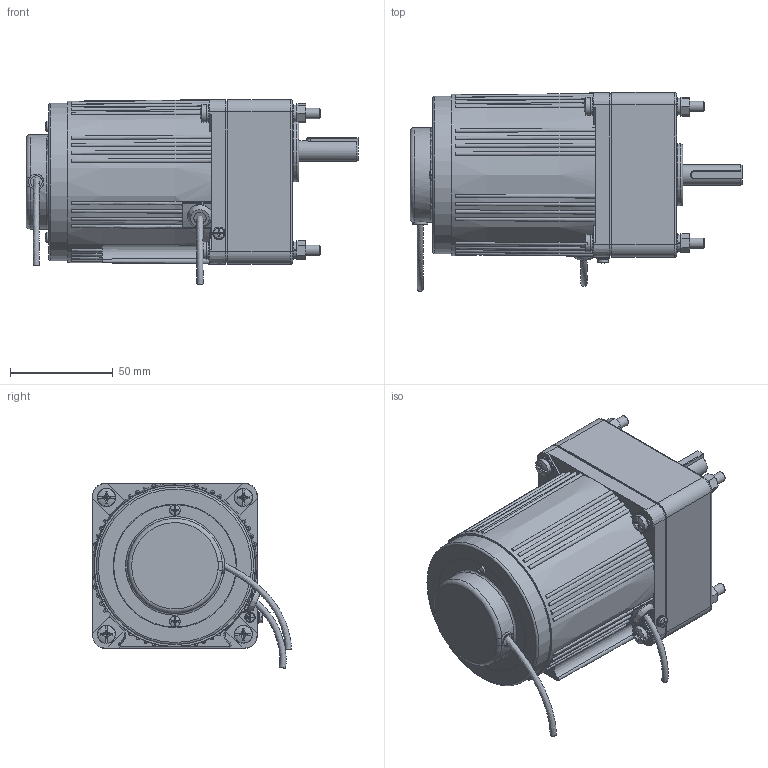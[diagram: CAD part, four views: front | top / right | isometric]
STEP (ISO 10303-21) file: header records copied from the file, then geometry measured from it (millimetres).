
FILE_DESCRIPTION(/* description */ (''),/* implementation_level */ '2;1');
FILE_NAME(/* name */ '4RK25-30CC·R-4GN3-20K-C·10T.stp',/* time_stamp */ '2024-11-02T11:06:20+08:00',/* author */ (''),/* organization */ (''),/* preprocessor_version */ 'ST-DEVELOPER v18.102',/* originating_system */ 'SIEMENS PLM Software NX 2027',/* authorisation */ '');
FILE_SCHEMA (('AP203_CONFIGURATION_CONTROLLED_3D_DESIGN_OF_MECHANICAL_PARTS_AND_ASSEMBLIES_MIM_LF { 1 0 10303 403 2 1 2}'));
Length unit declared in the file: millimetre
Products named in the file (1): 4RK25-30CC-4GN3-20K-C·10T_stp_YF80229CE281axkb
Bounding box: 161.3 x 96.6 x 89.85 mm (x, y, z)
Volume: 658224.8 mm3; surface area: 83996.1 mm2
Topology: 21 solids, 22 shells, 967 faces, 2449 edges, 1580 vertices
Faces by surface type: plane 334, bspline 278, cylinder 160, cone 126, torus 47, sphere 18, revolution 4
Full cylindrical faces by diameter (mm): 2.6 x1, 2.7 x1, 3.2 x1, 4 x1, 4.351 x4, 4.4 x1, 4.6 x4, 5 x5, 5.1 x3, 5.3 x8, 5.8 x1, 6 x10, 6.5 x4, 7.4 x1, 8.2 x1, 8.5 x4, 9 x8, 10 x1, 10.5 x1, 19 x1, 26 x1, 30 x1, 46 x1, 56 x1, 59.5 x1, 60 x1, 67 x1, 75 x2, 76.5 x1, 77.5 x1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
Entity records: 35392 total; most frequent: CARTESIAN_POINT 15547, ORIENTED_EDGE 4512, DIRECTION 2956, EDGE_CURVE 2256, VERTEX_POINT 1519, AXIS2_PLACEMENT_3D 1245, B_SPLINE_CURVE_WITH_KNOTS 1227, EDGE_LOOP 1192
